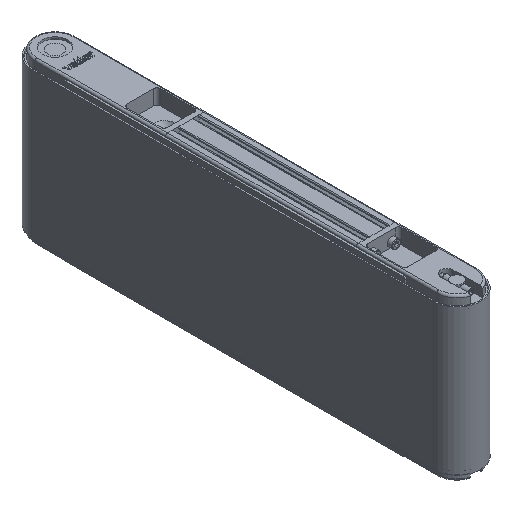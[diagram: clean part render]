
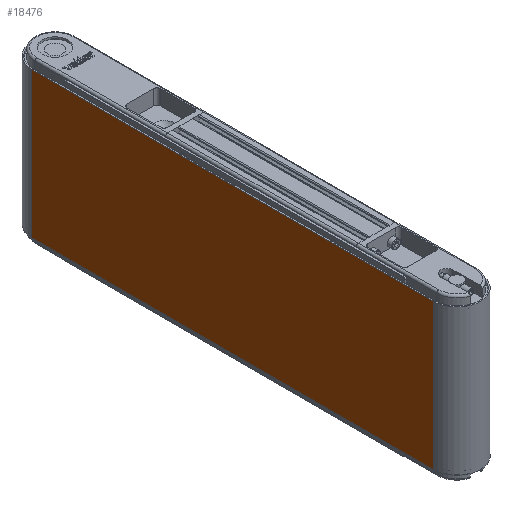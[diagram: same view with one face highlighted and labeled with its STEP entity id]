
A CAD part, isometric view. The second image highlights one B-rep face of the part: STEP entity #18476.
In plain terms, the highlighted planar face has unit normal (-1, 0, 0).
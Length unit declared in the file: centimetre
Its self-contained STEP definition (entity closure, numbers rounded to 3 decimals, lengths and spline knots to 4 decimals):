
#1896=FACE_OUTER_BOUND('',#2901,.T.);
#2901=EDGE_LOOP('',(#12434,#12435,#12436,#12437));
#4167=LINE('',#27124,#5659);
#4168=LINE('',#27129,#5660);
#4170=LINE('',#27133,#5662);
#4171=LINE('',#27134,#5663);
#5659=VECTOR('',#22230,1.);
#5660=VECTOR('',#22235,1.);
#5662=VECTOR('',#22239,1.);
#5663=VECTOR('',#22240,1.);
#7313=VERTEX_POINT('',#27118);
#7315=VERTEX_POINT('',#27122);
#7317=VERTEX_POINT('',#27127);
#7318=VERTEX_POINT('',#27132);
#9322=EDGE_CURVE('',#7313,#7315,#4167,.T.);
#9324=EDGE_CURVE('',#7317,#7315,#4168,.T.);
#9326=EDGE_CURVE('',#7317,#7318,#4170,.T.);
#9327=EDGE_CURVE('',#7318,#7313,#4171,.T.);
#12434=ORIENTED_EDGE('',*,*,#9326,.T.);
#12435=ORIENTED_EDGE('',*,*,#9327,.T.);
#12436=ORIENTED_EDGE('',*,*,#9322,.T.);
#12437=ORIENTED_EDGE('',*,*,#9324,.F.);
#16882=PLANE('',#19739);
#18476=ADVANCED_FACE('',(#1896),#16882,.T.);
#19739=AXIS2_PLACEMENT_3D('',#27131,#22237,#22238);
#22230=DIRECTION('',(0.,1.,0.));
#22235=DIRECTION('',(0.,0.,1.));
#22237=DIRECTION('center_axis',(-1.,0.,0.));
#22238=DIRECTION('ref_axis',(0.,0.,
1.));
#22239=DIRECTION('',(0.,-1.,0.));
#22240=DIRECTION('',(0.,0.,1.));
#27118=CARTESIAN_POINT('',(-2.33,-27.,7.25));
#27122=CARTESIAN_POINT('',(-2.33,13.,7.25));
#27124=CARTESIAN_POINT('',(-2.33,13.,7.25));
#27127=CARTESIAN_POINT('',(-2.33,13.,-7.25));
#27129=CARTESIAN_POINT('',(-2.33,13.,0.));
#27131=CARTESIAN_POINT('Origin',(-2.33,13.,0.));
#27132=CARTESIAN_POINT('',(-2.33,-27.,-7.25));
#27133=CARTESIAN_POINT('',(-2.33,13.,-7.25));
#27134=CARTESIAN_POINT('',(-2.33,-27.,0.));
